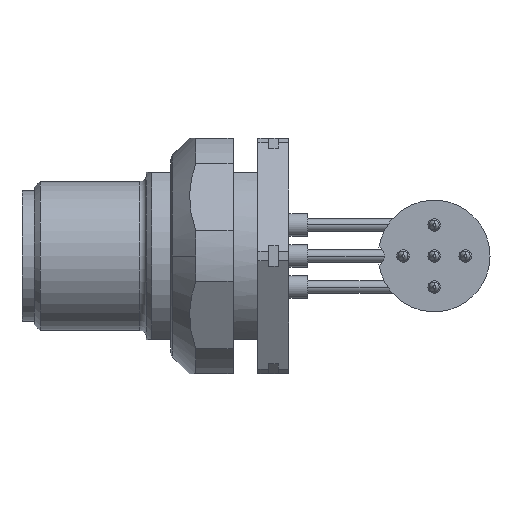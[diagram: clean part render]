
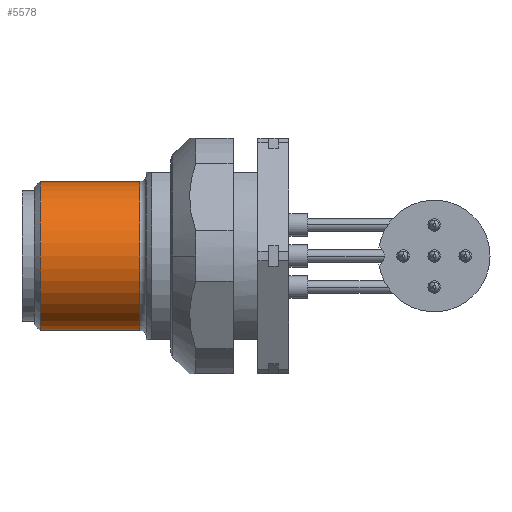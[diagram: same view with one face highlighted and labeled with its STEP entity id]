
A CAD part, left-side view. The second image highlights one B-rep face of the part: STEP entity #5578.
In plain terms, the highlighted cylindrical face has radius 6 mm (diameter 12 mm), a partial arc.
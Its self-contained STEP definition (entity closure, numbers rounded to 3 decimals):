
#189 = ORIENTED_EDGE ( 'NONE', *, *, #4277, .F. ) ;
#275 = ORIENTED_EDGE ( 'NONE', *, *, #6235, .T. ) ;
#882 = CARTESIAN_POINT ( 'NONE',  ( 0., 0., -6. ) ) ;
#958 = CIRCLE ( 'NONE', #6838, 6. ) ;
#1147 = ORIENTED_EDGE ( 'NONE', *, *, #3841, .F. ) ;
#1156 = CARTESIAN_POINT ( 'NONE',  ( 0., 0., 6. ) ) ;
#1166 = CARTESIAN_POINT ( 'NONE',  ( 0., 20.025, 0. ) ) ;
#1285 = AXIS2_PLACEMENT_3D ( 'NONE', #3621, #5209, #2015 ) ;
#1385 = CARTESIAN_POINT ( 'NONE',  ( 0., 12., -6. ) ) ;
#1624 = VERTEX_POINT ( 'NONE', #1764 ) ;
#1686 = DIRECTION ( 'NONE',  ( 0., 0., -1. ) ) ;
#1764 = CARTESIAN_POINT ( 'NONE',  ( 0., 20.025, -6. ) ) ;
#2015 = DIRECTION ( 'NONE',  ( 0., 0., -1. ) ) ;
#2020 = EDGE_CURVE ( 'NONE', #1624, #5898, #4712, .T. ) ;
#2309 = CARTESIAN_POINT ( 'NONE',  ( 0., 12., 0. ) ) ;
#2519 = VERTEX_POINT ( 'NONE', #3301 ) ;
#2849 = DIRECTION ( 'NONE',  ( 0., 0., -1. ) ) ;
#2851 = CIRCLE ( 'NONE', #4557, 6. ) ;
#3301 = CARTESIAN_POINT ( 'NONE',  ( 0., 20.025, 6. ) ) ;
#3621 = CARTESIAN_POINT ( 'NONE',  ( 0., 0., 0. ) ) ;
#3841 = EDGE_CURVE ( 'NONE', #4571, #5898, #958, .T. ) ;
#3972 = VECTOR ( 'NONE', #6465, 1000. ) ;
#3994 = EDGE_LOOP ( 'NONE', ( #189, #275, #5196, #1147 ) ) ;
#4079 = DIRECTION ( 'NONE',  ( 0., -1., 0. ) ) ;
#4106 = CYLINDRICAL_SURFACE ( 'NONE', #1285, 6. ) ;
#4277 = EDGE_CURVE ( 'NONE', #2519, #4571, #5354, .T. ) ;
#4343 = CARTESIAN_POINT ( 'NONE',  ( 0., 12., 6. ) ) ;
#4557 = AXIS2_PLACEMENT_3D ( 'NONE', #1166, #4862, #1686 ) ;
#4571 = VERTEX_POINT ( 'NONE', #4343 ) ;
#4712 = LINE ( 'NONE', #882, #5808 ) ;
#4862 = DIRECTION ( 'NONE',  ( 0., -1., 0. ) ) ;
#5196 = ORIENTED_EDGE ( 'NONE', *, *, #2020, .T. ) ;
#5209 = DIRECTION ( 'NONE',  ( 0., -1., 0. ) ) ;
#5354 = LINE ( 'NONE', #1156, #3972 ) ;
#5578 = ADVANCED_FACE ( 'NONE', ( #5677 ), #4106, .T. ) ;
#5677 = FACE_OUTER_BOUND ( 'NONE', #3994, .T. ) ;
#5808 = VECTOR ( 'NONE', #4079, 1000. ) ;
#5898 = VERTEX_POINT ( 'NONE', #1385 ) ;
#6050 = DIRECTION ( 'NONE',  ( 0., -1., 0. ) ) ;
#6235 = EDGE_CURVE ( 'NONE', #2519, #1624, #2851, .T. ) ;
#6465 = DIRECTION ( 'NONE',  ( 0., -1., 0. ) ) ;
#6838 = AXIS2_PLACEMENT_3D ( 'NONE', #2309, #6050, #2849 ) ;
